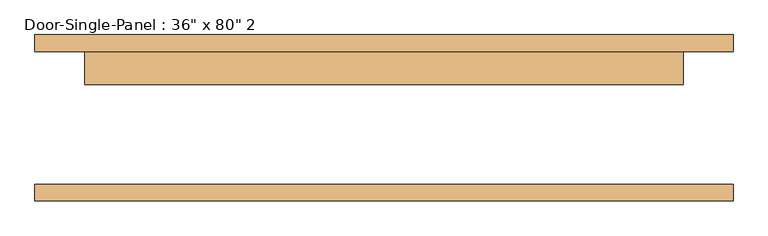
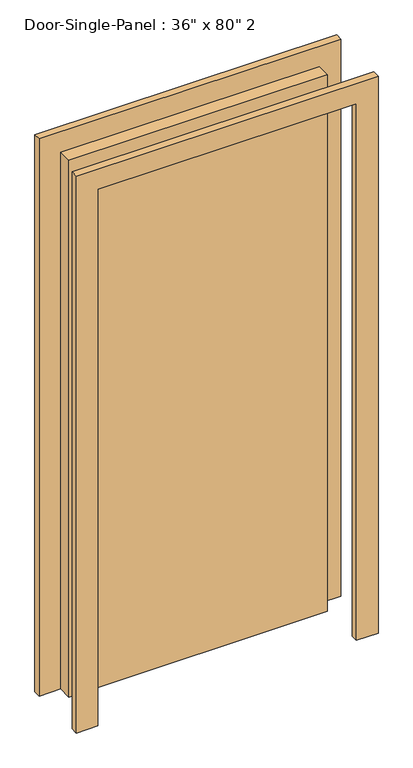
"""IFC4 building model written with IfcOpenShell, lengths in millimetres: door geometry."""

from ifc_helpers import new_model, si_unit, frame, origin, origin_with_axes, place, context, project, spatial, polyline, outline, extrude, source, transform, mapped, element, save


def door_d1d36842(model_context):
    return source(origin(), model_context, "Body", "SweptSolid", [
        extrude(outline(polyline([(457.2, 50.8), (-457.2, 50.8), (-457.2, 101.6), (457.2, 101.6), (457.2, 50.8)])), origin_with_axes(), (0.0, 0.0, 1.0), 2006.6),
        extrude(outline(polyline([(2082.8, -533.4), (0.0, -533.4), (0.0, -457.2), (2006.6, -457.2), (2006.6, 457.2), (0.0, 457.2), (0.0, 533.4), (2082.8, 533.4), (2082.8, -533.4)])), frame((0.0, 101.6, 0.0), z_axis=(0.0, 1.0, 0.0), x_axis=(0.0, 0.0, 1.0)), (0.0, 0.0, 1.0), 25.4),
        extrude(outline(polyline([(2082.8, 533.4), (2082.8, -533.4), (0.0, -533.4), (0.0, -457.2), (2006.6, -457.2), (2006.6, 457.2), (0.0, 457.2), (0.0, 533.4), (2082.8, 533.4)])), frame((0.0, -127.0, 0.0), z_axis=(0.0, 1.0, 0.0), x_axis=(0.0, 0.0, 1.0)), (0.0, 0.0, 1.0), 25.4),
    ])


if __name__ == "__main__":
    model = new_model("IFC4")
    model_context = context("Model", 3, world=origin())
    ifc_project = project(units=[si_unit("LENGTHUNIT", "METRE", prefix="MILLI")], contexts=[model_context])
    site = spatial("IfcSite", under=ifc_project)
    building = spatial("IfcBuilding", under=site)
    placement = place(None, origin())
    door_shape = door_d1d36842(model_context)
    element("IfcDoor", 1, ObjectType="Door-Single-Panel : 36\" x 80\" 2", at=placement, inside=building, context=model_context, shape_type="MappedRepresentation", body=[
        mapped(door_shape, transform((0.0, 0.0, 0.0), x_axis=(1.0, 0.0, 0.0), y_axis=(0.0, 1.0, 0.0), z_axis=(0.0, 0.0, 1.0))),
    ])
    save(model, "model.ifc")
